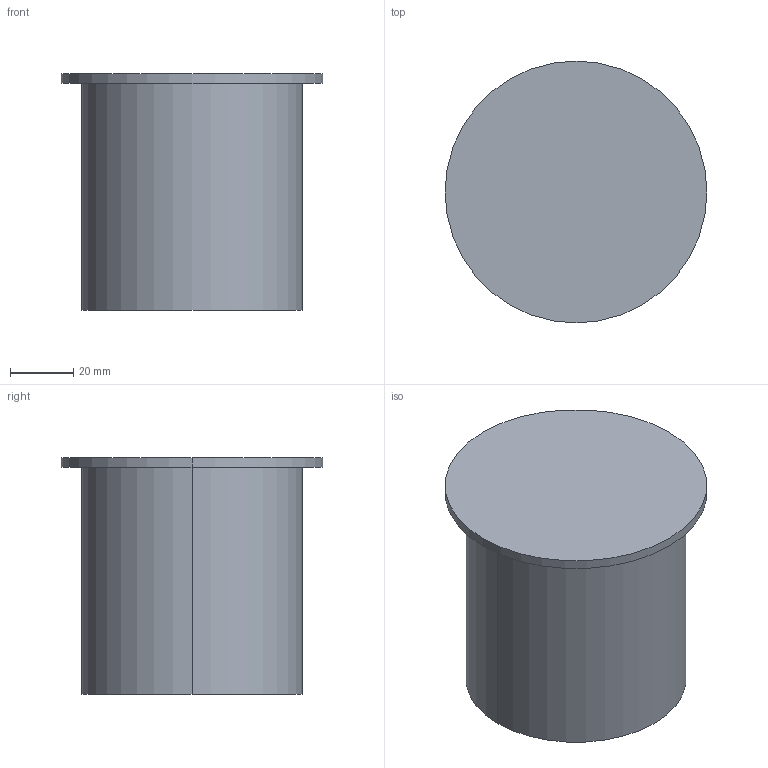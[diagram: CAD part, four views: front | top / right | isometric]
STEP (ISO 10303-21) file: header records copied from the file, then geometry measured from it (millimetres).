
FILE_DESCRIPTION (( 'STEP AP214' ), '1' );
FILE_NAME ('spool-holder-for-core-one-250903.STEP', '2025-09-03T20:47:59', ( '' ), ( '' ), 'SwSTEP 2.0', 'SolidWorks 2024', '' );
FILE_SCHEMA (( 'AUTOMOTIVE_DESIGN' ));
Length unit declared in the file: millimetre
Products named in the file (1): spool-holder-for-core-one-250903
Bounding box: 83 x 83 x 75 mm (x, y, z)
Volume: 272551.4 mm3; surface area: 67110.9 mm2
Topology: 7 solids, 7 shells, 1099 faces, 2771 edges, 1700 vertices
Faces by surface type: bspline 396, cylinder 380, plane 232, cone 81, torus 10
Entity records: 79356 total; most frequent: CARTESIAN_POINT 58315, ORIENTED_EDGE 5526, DIRECTION 3313, EDGE_CURVE 2763, VERTEX_POINT 1700, AXIS2_PLACEMENT_3D 1514, EDGE_LOOP 1131, FACE_OUTER_BOUND 1099
